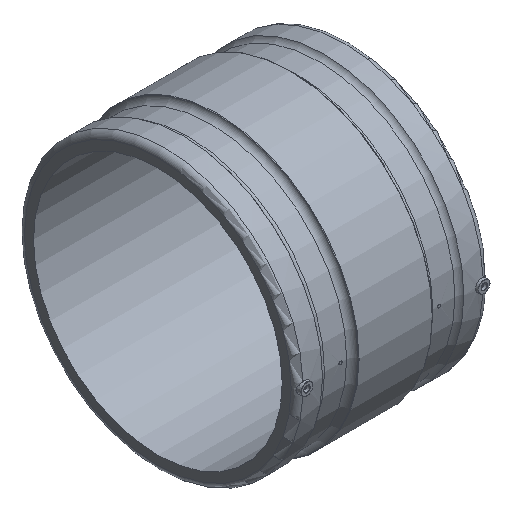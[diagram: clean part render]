
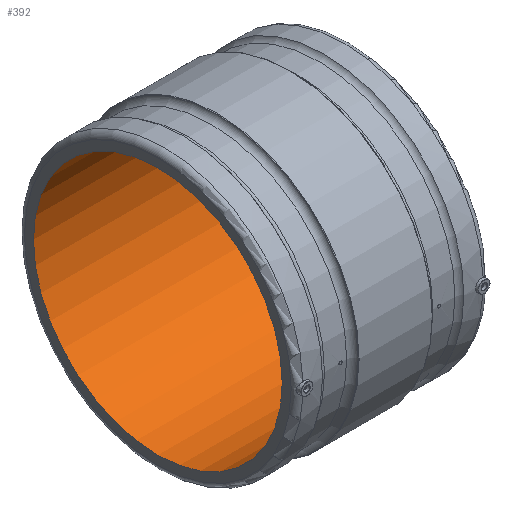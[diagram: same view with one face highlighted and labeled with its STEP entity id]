
A CAD part, isometric view. The second image highlights one B-rep face of the part: STEP entity #392.
In plain terms, the highlighted cylindrical face has radius 250 mm (diameter 500 mm), a full revolution.
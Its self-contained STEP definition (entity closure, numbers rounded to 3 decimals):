
#56=CIRCLE('',#453,250.);
#57=CIRCLE('',#455,250.);
#98=ORIENTED_EDGE('',*,*,#171,.F.);
#99=ORIENTED_EDGE('',*,*,#170,.T.);
#170=EDGE_CURVE('',#206,#206,#56,.T.);
#171=EDGE_CURVE('',#207,#207,#57,.T.);
#206=VERTEX_POINT('',#753);
#207=VERTEX_POINT('',#756);
#250=EDGE_LOOP('',(#98));
#251=EDGE_LOOP('',(#99));
#320=FACE_BOUND('',#250,.T.);
#321=FACE_BOUND('',#251,.T.);
#377=CYLINDRICAL_SURFACE('',#454,250.);
#392=ADVANCED_FACE('',(#320,#321),#377,.F.);
#453=AXIS2_PLACEMENT_3D('',#752,#543,#544);
#454=AXIS2_PLACEMENT_3D('',#754,#545,#546);
#455=AXIS2_PLACEMENT_3D('',#755,#547,#548);
#543=DIRECTION('',(-1.,0.,0.));
#544=DIRECTION('',(0.,0.,1.));
#545=DIRECTION('',(-1.,0.,0.));
#546=DIRECTION('',(0.,0.,1.));
#547=DIRECTION('',(-1.,0.,0.));
#548=DIRECTION('',(0.,0.,1.));
#752=CARTESIAN_POINT('',(-193.,0.,0.));
#753=CARTESIAN_POINT('',(-193.,0.,250.));
#754=CARTESIAN_POINT('',(-42.391,0.,0.));
#755=CARTESIAN_POINT('',(193.,0.,0.));
#756=CARTESIAN_POINT('',(193.,0.,250.));
